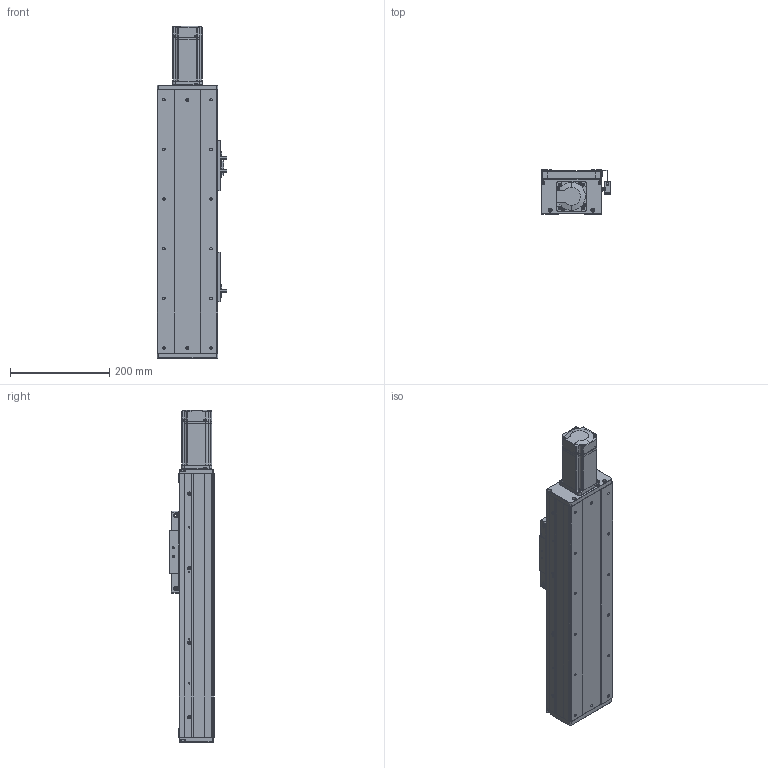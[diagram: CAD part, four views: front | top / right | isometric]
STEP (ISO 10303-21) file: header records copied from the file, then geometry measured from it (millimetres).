
FILE_DESCRIPTION (( 'STEP AP203' ), '1' );
FILE_NAME ('RY120F-L1620-300-MK.SLDASM_250.step', '2021-03-02T06:01:41', ( '盈信电脑' ), ( '东莞市道滘镇水果街19号' ), 'SwSTEP 2.0', 'SolidWorks 2012', '' );
FILE_SCHEMA (( 'CONFIG_CONTROL_DESIGN' ));
Length unit declared in the file: millimetre
Products named in the file (19): RY120F滅鳥詩湍-300-MK_250; RY120F-L1620-300-MK.SLDASM_250; RY120F-臏賑輸 16蹟譫; 滅袉蝶18-28; RY80俋离覜茼え; FY120F詩湍揤踡輸; 672嫖萇羲壽假蚾釱; 覜茼ん672; 滅袉蝶18-24; RY120F綴裔啣(臏璃ㄘ; RY120F祥凄詩滅鳥裔; RY120F-詩湍幗謫粣; 侂狟400W侜督萇儂; RY120F眻蟀ヶ裔啣; 15; RY120F-臏賑輸奻釱; 絳寢賑輸EGH15; RY120F-300-倰第菁釱_250; RY120F-300-倰第裔啣_250
Assembly tree (25 placements, depth 3):
  RY120F-L1620-300-MK.SLDASM_250
    RY120F-300-倰第菁釱_250
    RY120F-300-倰第裔啣_250  x2
    RY120F滅鳥詩湍-300-MK_250
    絳寢賑輸EGH15  x2
    RY120F-臏賑輸奻釱
    侂狟400W侜督萇儂
      15
    RY120F眻蟀ヶ裔啣
    RY120F祥凄詩滅鳥裔
    滅袉蝶18-24
    RY120F綴裔啣(臏璃ㄘ
    RY120F-詩湍幗謫粣
    覜茼ん672  x3
    672嫖萇羲壽假蚾釱  x2
    RY80俋离覜茼え
    FY120F詩湍揤踡輸  x2
    RY120F-臏賑輸 16蹟譫
    滅袉蝶18-28  x2
Bounding box: 140.35 x 89 x 668.5 mm (x, y, z)
Volume: 2375379.5 mm3; surface area: 795256.1 mm2
Topology: 24 solids, 24 shells, 2073 faces, 5533 edges, 3571 vertices
Faces by surface type: plane 966, cylinder 906, cone 183, bspline 18
Entity records: 55018 total; most frequent: CARTESIAN_POINT 9831, DIRECTION 9319, ORIENTED_EDGE 8726, EDGE_CURVE 4363, AXIS2_PLACEMENT_3D 3349, VERTEX_POINT 2855, VECTOR 2621, LINE 2621
